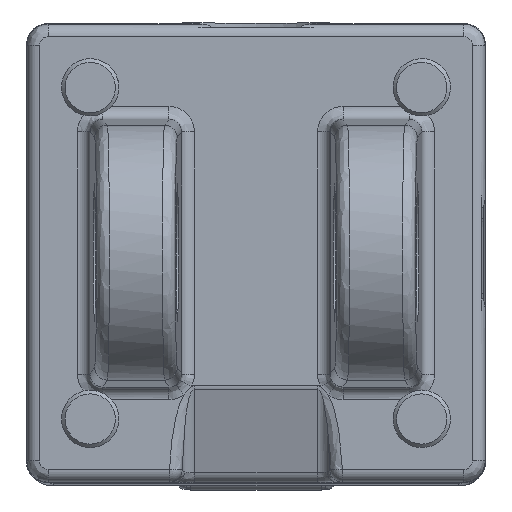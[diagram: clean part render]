
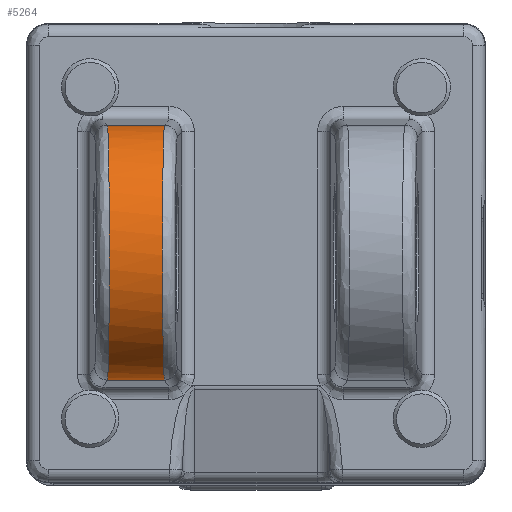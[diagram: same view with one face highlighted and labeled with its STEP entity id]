
A CAD part, top view. The second image highlights one B-rep face of the part: STEP entity #5264.
In plain terms, the highlighted cylindrical face has radius 23.812 mm (diameter 47.625 mm), a partial arc.
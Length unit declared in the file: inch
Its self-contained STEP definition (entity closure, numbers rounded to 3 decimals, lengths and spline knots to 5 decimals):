
#3969=CARTESIAN_POINT('',(-1.09279,0.93718,2.08704));
#3970=VERTEX_POINT('',#3969);
#4021=CARTESIAN_POINT('',(-1.09279,-0.93718,2.08704));
#4022=VERTEX_POINT('',#4021);
#4046=CARTESIAN_POINT('',(-0.67283,-0.93718,2.08704));
#4047=VERTEX_POINT('',#4046);
#4054=CARTESIAN_POINT('',(-1.09279,-0.93718,2.08704));
#4055=DIRECTION('',(1.0,0.0,0.0));
#4056=VECTOR('',#4055,0.41996);
#4057=LINE('',#4054,#4056);
#4058=EDGE_CURVE('',#4022,#4047,#4057,.T.);
#5119=CARTESIAN_POINT('',(-0.67283,0.93718,2.08704));
#5120=VERTEX_POINT('',#5119);
#5213=CARTESIAN_POINT('',(-0.67244,0.,2.0625));
#5214=DIRECTION('',(1.,0.,0.016));
#5215=DIRECTION('',(-0.016,0.,1.));
#5216=AXIS2_PLACEMENT_3D('',#5213,#5214,#5215);
#5217=ELLIPSE('',#5216,0.93762,0.9375);
#5218=EDGE_CURVE('',#5120,#4047,#5217,.T.);
#5242=CARTESIAN_POINT('',(0.0,0.0,2.0625));
#5243=DIRECTION('',(1.0,0.0,0.0));
#5244=DIRECTION('',(0.0,1.,0.026));
#5245=AXIS2_PLACEMENT_3D('',#5242,#5243,#5244);
#5246=CYLINDRICAL_SURFACE('',#5245,0.9375);
#5247=ORIENTED_EDGE('',*,*,#5218,.F.);
#5248=CARTESIAN_POINT('',(-1.09279,0.93718,2.08704));
#5249=DIRECTION('',(1.0,0.0,0.0));
#5250=VECTOR('',#5249,0.41996);
#5251=LINE('',#5248,#5250);
#5252=EDGE_CURVE('',#3970,#5120,#5251,.T.);
#5253=ORIENTED_EDGE('',*,*,#5252,.F.);
#5254=CARTESIAN_POINT('',(-1.09319,0.,2.0625));
#5255=DIRECTION('',(-1.,0.,0.016));
#5256=DIRECTION('',(0.016,0.,1.));
#5257=AXIS2_PLACEMENT_3D('',#5254,#5255,#5256);
#5258=ELLIPSE('',#5257,0.93762,0.9375);
#5259=EDGE_CURVE('',#4022,#3970,#5258,.T.);
#5260=ORIENTED_EDGE('',*,*,#5259,.F.);
#5261=ORIENTED_EDGE('',*,*,#4058,.T.);
#5262=EDGE_LOOP('',(#5247,#5253,#5260,#5261));
#5263=FACE_OUTER_BOUND('',#5262,.T.);
#5264=ADVANCED_FACE('',(#5263),#5246,.T.);
